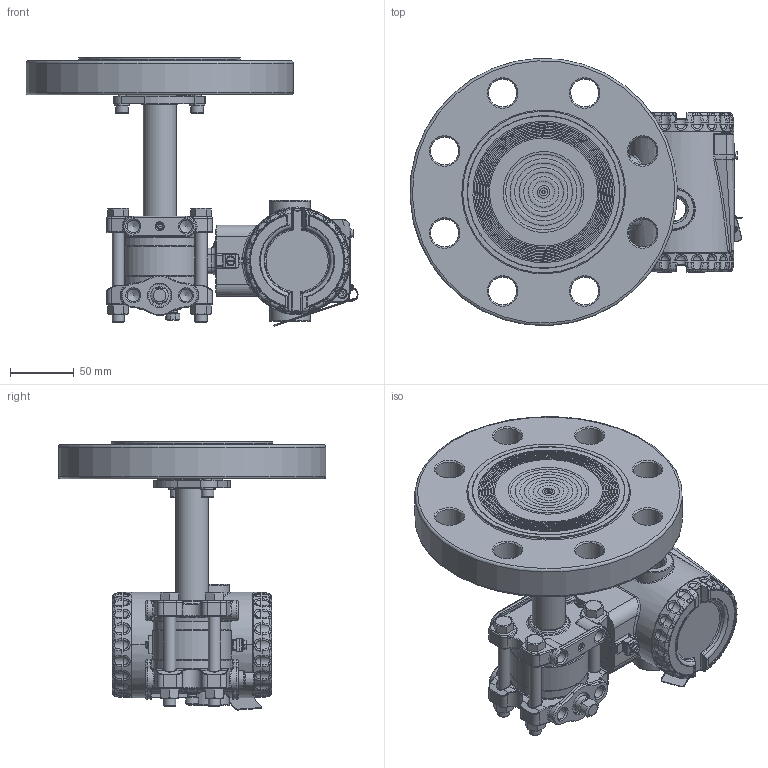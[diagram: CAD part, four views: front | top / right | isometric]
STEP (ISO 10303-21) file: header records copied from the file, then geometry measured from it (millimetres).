
FILE_DESCRIPTION(/* description */ (''),/* implementation_level */ '2;1');
FILE_NAME(/* name */ 'F:\Area\Desenvolvimento_2\Projects\Sensor\projetos\LD400-3d\dimensionais 3D clientes\LD400L\LD400L 3-300 RF ref 1-4NPT purga acima.stp',/* time_stamp */ '2023-02-23T16:20:04-03:00',/* author */ ('inventor02'),/* organization */ (''),/* preprocessor_version */ 'ST-DEVELOPER v17',/* originating_system */ 'Autodesk Inventor 2019',/* authorisation */ '');
FILE_SCHEMA (('CONFIG_CONTROL_DESIGN'));
Products named in the file (38): LD30XL 3-300 RF ref 1-4NPT purga acima; 204-0301-L-3 300 RF purga acima; nivel fx3 com baixa diferencial 1-4NPT purga acima; involucro fx0-3 apos a usinagem final; flange diferencial std purga; 101-C-7484-01 flange selo nivel VR; 201-A-0504-tubo união teste 1; bujao 1-4NPT; Sangria; Porca 3-8 x 16 UNC; Paraf. 3-8 x 16 UNC; adaptação tubo x flanges 1-1-2 a 4pol; 101-B-0161-anel cortado do tubo - teste1; 101-B-0162-flange fixação tubo; ANSI B18.3.1M - M6x1 x 16; DIN 127 - A 6; 101-C-0118-10; Carcaça 400 com tampas e plaqueta sem letras; 101-D-0845-05 carcaça LD400 sem letras; 101-B-3614-03-tampa 400 sem letras; Tampa visor 400 montada sem letras; 101-B-3612-05 tampa visor 400 sem letras; 101-A-6107; oring 2034; 00034775-0; WHW_250; DIN 915 - M6 x 10; Chapa aterramento externo; 201-A-1771-02 inserto terra recartilhado; AS 1969 - ST4,2; ISO 1207 - M4 x 8; ANSI B18.3.1M - M4x0,7 x 8; Subconjunto plaqueta 400; plaqueta 400 em branco; Parafuso da Plaqueta; Rebite da Plaqueta; 096-A-0169-03; 101-A-0502-01
Assembly tree (47 placements, depth 4):
  LD30XL 3-300 RF ref 1-4NPT purga acima
    204-0301-L-3 300 RF purga acima
      nivel fx3 com baixa diferencial 1-4NPT purga acima
        involucro fx0-3 apos a usinagem final
        flange diferencial std purga
        101-C-7484-01 flange selo nivel VR
        201-A-0504-tubo união teste 1
        DIN 915 - M6 x 10
        bujao 1-4NPT
        Sangria
        Porca 3-8 x 16 UNC  x4
        Paraf. 3-8 x 16 UNC  x4
      adaptação tubo x flanges 1-1-2 a 4pol
        101-B-0161-anel cortado do tubo - teste1
        101-B-0162-flange fixação tubo
        ANSI B18.3.1M - M6x1 x 16  x2
        DIN 127 - A 6  x2
      101-C-0118-10
    Carcaça 400 com tampas e plaqueta sem letras
      101-D-0845-05 carcaça LD400 sem letras
      101-B-3614-03-tampa 400 sem letras
      Tampa visor 400 montada sem letras
        101-B-3612-05 tampa visor 400 sem letras
        101-A-6107
        oring 2034
        00034775-0
        WHW_250
      DIN 915 - M6 x 10
      Chapa aterramento externo
      201-A-1771-02 inserto terra recartilhado
      AS 1969 - ST4,2
      ISO 1207 - M4 x 8
      ANSI B18.3.1M - M4x0,7 x 8  x2
      Subconjunto plaqueta 400
        plaqueta 400 em branco
        Parafuso da Plaqueta
        Rebite da Plaqueta
        096-A-0169-03
        101-A-0502-01
Bounding box: 260.65 x 209.8 x 210.42 mm (x, y, z)
Volume: 1502345.8 mm3; surface area: 356294.3 mm2
Topology: 41 solids, 41 shells, 2728 faces, 6623 edges, 3963 vertices
Faces by surface type: plane 708, cylinder 660, bspline 605, torus 455, cone 224, sphere 76
Full cylindrical faces by diameter (mm): 2 x4, 2.1 x1, 2.2 x1, 2.459 x3, 2.5 x1, 2.7 x1, 2.8 x1, 3 x4, 3.242 x3, 3.5 x1, 3.571 x1, 4 x5, 4.3 x2, 4.4 x1, 4.917 x4, 5 x1, 5.5 x3, 6 x6, 6.1 x2, 6.2 x1, 6.647 x1, 7 x5, 7.6 x2, 7.798 x4, 8 x1, 9.525 x4, 9.728 x6, 10 x2, 10.5 x8, 10.719 x2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
Entity records: 97407 total; most frequent: CARTESIAN_POINT 36896, ORIENTED_EDGE 12486, DIRECTION 12434, EDGE_CURVE 6243, AXIS2_PLACEMENT_3D 5307, VERTEX_POINT 3769, CIRCLE 3073, EDGE_LOOP 2758
